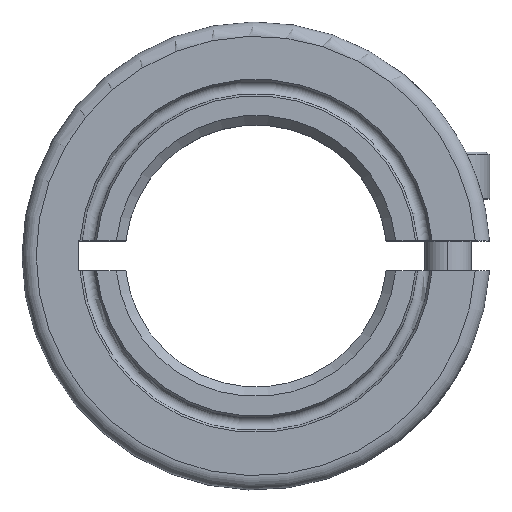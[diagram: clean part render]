
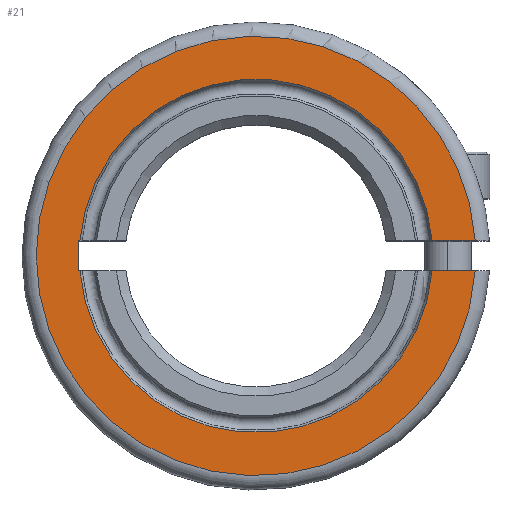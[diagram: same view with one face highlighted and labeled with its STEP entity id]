
A CAD part, top view. The second image highlights one B-rep face of the part: STEP entity #21.
In plain terms, the highlighted planar face has unit normal (0, 0, 1).
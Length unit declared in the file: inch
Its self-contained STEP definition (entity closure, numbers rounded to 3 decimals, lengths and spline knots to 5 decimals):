
#21 = ADVANCED_FACE ( 'NONE', ( #1512 ), #375, .T. ) ;
#37 = DIRECTION ( 'NONE',  ( 1., 0., 0. ) ) ;
#51 = EDGE_CURVE ( 'NONE', #1255, #1760, #560, .T. ) ;
#53 = ORIENTED_EDGE ( 'NONE', *, *, #958, .T. ) ;
#57 = CIRCLE ( 'NONE', #466, 0.37165 ) ;
#109 = CIRCLE ( 'NONE', #605, 0.37165 ) ;
#123 = CARTESIAN_POINT ( 'NONE',  ( 0.46105, 0.0315, 0.11811 ) ) ;
#136 = EDGE_CURVE ( 'NONE', #893, #1009, #434, .T. ) ;
#139 = CARTESIAN_POINT ( 'NONE',  ( 0.37031, 0.0315, 0.11811 ) ) ;
#142 = AXIS2_PLACEMENT_3D ( 'NONE', #1227, #1080, #638 ) ;
#193 = CARTESIAN_POINT ( 'NONE',  ( -0.37031, -0.0315, 0.11811 ) ) ;
#194 = DIRECTION ( 'NONE',  ( 1., 0., 0. ) ) ;
#239 = CARTESIAN_POINT ( 'NONE',  ( 0., 0., 0.11811 ) ) ;
#285 = DIRECTION ( 'NONE',  ( -1., 0., 0. ) ) ;
#293 = CARTESIAN_POINT ( 'NONE',  ( -0.37402, 0.0315, 0.11811 ) ) ;
#331 = VERTEX_POINT ( 'NONE', #627 ) ;
#344 = DIRECTION ( 'NONE',  ( 0., 0., 1. ) ) ;
#347 = DIRECTION ( 'NONE',  ( 0., 0., 1. ) ) ;
#348 = VERTEX_POINT ( 'NONE', #193 ) ;
#351 = ORIENTED_EDGE ( 'NONE', *, *, #732, .F. ) ;
#375 = PLANE ( 'NONE',  #812 ) ;
#393 = DIRECTION ( 'NONE',  ( 0., 0., 1. ) ) ;
#434 = LINE ( 'NONE', #293, #1128 ) ;
#466 = AXIS2_PLACEMENT_3D ( 'NONE', #1494, #347, #927 ) ;
#472 = CARTESIAN_POINT ( 'NONE',  ( -0.37402, -0.0315, 0.11811 ) ) ;
#541 = VERTEX_POINT ( 'NONE', #1914 ) ;
#560 = LINE ( 'NONE', #1879, #600 ) ;
#561 = DIRECTION ( 'NONE',  ( 1., 0., 0. ) ) ;
#563 = EDGE_CURVE ( 'NONE', #541, #331, #592, .T. ) ;
#592 = LINE ( 'NONE', #1872, #1837 ) ;
#600 = VECTOR ( 'NONE', #285, 39.37008 ) ;
#603 = VECTOR ( 'NONE', #1188, 39.37008 ) ;
#605 = AXIS2_PLACEMENT_3D ( 'NONE', #1635, #344, #37 ) ;
#624 = ORIENTED_EDGE ( 'NONE', *, *, #1035, .F. ) ;
#627 = CARTESIAN_POINT ( 'NONE',  ( 0.46105, -0.0315, 0.11811 ) ) ;
#638 = DIRECTION ( 'NONE',  ( 1., 0., 0. ) ) ;
#732 = EDGE_CURVE ( 'NONE', #1628, #893, #1478, .T. ) ;
#812 = AXIS2_PLACEMENT_3D ( 'NONE', #239, #393, #561 ) ;
#893 = VERTEX_POINT ( 'NONE', #1669 ) ;
#911 = VECTOR ( 'NONE', #194, 39.37008 ) ;
#927 = DIRECTION ( 'NONE',  ( 1., 0., 0. ) ) ;
#958 = EDGE_CURVE ( 'NONE', #1255, #331, #976, .T. ) ;
#976 = CIRCLE ( 'NONE', #142, 0.46213 ) ;
#989 = EDGE_CURVE ( 'NONE', #348, #541, #109, .T. ) ;
#1009 = VERTEX_POINT ( 'NONE', #472 ) ;
#1035 = EDGE_CURVE ( 'NONE', #1009, #348, #1067, .T. ) ;
#1047 = CARTESIAN_POINT ( 'NONE',  ( 0.49213, 0.0315, 0.11811 ) ) ;
#1067 = LINE ( 'NONE', #1824, #911 ) ;
#1080 = DIRECTION ( 'NONE',  ( 0., 0., 1. ) ) ;
#1091 = ORIENTED_EDGE ( 'NONE', *, *, #989, .F. ) ;
#1128 = VECTOR ( 'NONE', #1599, 39.37008 ) ;
#1160 = DIRECTION ( 'NONE',  ( 1., 0., 0. ) ) ;
#1188 = DIRECTION ( 'NONE',  ( -1., 0., 0. ) ) ;
#1227 = CARTESIAN_POINT ( 'NONE',  ( 0., 0., 0.11811 ) ) ;
#1255 = VERTEX_POINT ( 'NONE', #123 ) ;
#1305 = EDGE_LOOP ( 'NONE', ( #1887, #53, #1831, #1091, #624, #1464, #351, #1806 ) ) ;
#1464 = ORIENTED_EDGE ( 'NONE', *, *, #136, .F. ) ;
#1478 = LINE ( 'NONE', #1047, #603 ) ;
#1494 = CARTESIAN_POINT ( 'NONE',  ( 0., 0., 0.11811 ) ) ;
#1512 = FACE_OUTER_BOUND ( 'NONE', #1305, .T. ) ;
#1599 = DIRECTION ( 'NONE',  ( 0., -1., 0. ) ) ;
#1602 = CARTESIAN_POINT ( 'NONE',  ( -0.37031, 0.0315, 0.11811 ) ) ;
#1628 = VERTEX_POINT ( 'NONE', #1602 ) ;
#1635 = CARTESIAN_POINT ( 'NONE',  ( 0., 0., 0.11811 ) ) ;
#1669 = CARTESIAN_POINT ( 'NONE',  ( -0.37402, 0.0315, 0.11811 ) ) ;
#1760 = VERTEX_POINT ( 'NONE', #139 ) ;
#1806 = ORIENTED_EDGE ( 'NONE', *, *, #1908, .F. ) ;
#1824 = CARTESIAN_POINT ( 'NONE',  ( 0.49213, -0.0315, 0.11811 ) ) ;
#1831 = ORIENTED_EDGE ( 'NONE', *, *, #563, .F. ) ;
#1837 = VECTOR ( 'NONE', #1160, 39.37008 ) ;
#1872 = CARTESIAN_POINT ( 'NONE',  ( 0.49213, -0.0315, 0.11811 ) ) ;
#1879 = CARTESIAN_POINT ( 'NONE',  ( 0.49213, 0.0315, 0.11811 ) ) ;
#1887 = ORIENTED_EDGE ( 'NONE', *, *, #51, .F. ) ;
#1908 = EDGE_CURVE ( 'NONE', #1760, #1628, #57, .T. ) ;
#1914 = CARTESIAN_POINT ( 'NONE',  ( 0.37031, -0.0315, 0.11811 ) ) ;
